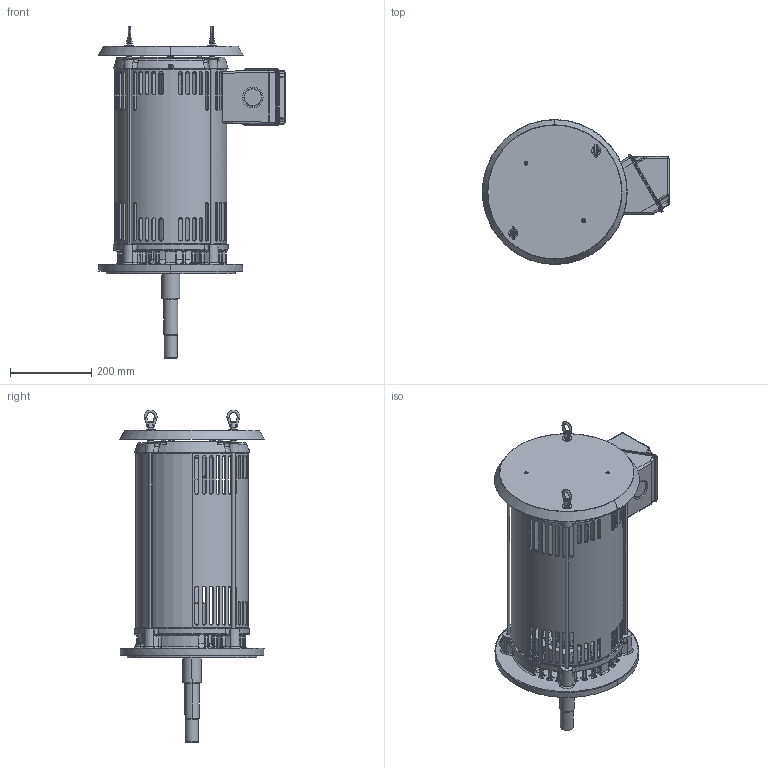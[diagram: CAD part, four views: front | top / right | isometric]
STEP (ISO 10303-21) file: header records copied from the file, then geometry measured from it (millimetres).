
FILE_DESCRIPTION((''),'2;1');
FILE_NAME('A280_ODP_2POLE_CCP_ASM','2021-09-15T10:07:05',('EMD2341'),('Nidec Motor Corporation'),'CREO PARAMETRIC BY PTC INC, 2020454','CREO PARAMETRIC BY PTC INC, 2020454','');
FILE_SCHEMA(('CONFIG_CONTROL_DESIGN'));
Length unit declared in the file: inch
Products named in the file (17): 2084116_AF0; 2035295-BKT_AF1; 2033996-005_AF2; 2028415_ASM; 2096718; 0561420; 2104498; 2104534; 0390752-SPA; 0471213-CAP; 0005800; 0041590; 2102222; 0046036; 0364282; 2103785; A280_ODP_2POLE_CCP_ASM
Assembly tree (26 placements, depth 3):
  A280_ODP_2POLE_CCP_ASM
    2084116_AF0
    2028415_ASM
      2035295-BKT_AF1
      2033996-005_AF2
    2096718
    0561420
    2104498
    2104534  x2
    0390752-SPA  x2
    0471213-CAP
    0005800  x2
    0041590  x6
    2102222  x2
    0046036  x2
    0364282
    2103785
Bounding box: 460.31 x 356.01 x 814.94 mm (x, y, z)
Volume: 6672986.5 mm3; surface area: 1997126.9 mm2
Topology: 27 solids, 41 shells, 4009 faces, 9805 edges, 5856 vertices
Faces by surface type: bspline 1248, cylinder 1066, plane 803, torus 426, cone 387, sphere 71, extrusion 8
Entity records: 180758 total; most frequent: CARTESIAN_POINT 97703, ORIENTED_EDGE 18894, DIRECTION 15062, EDGE_CURVE 9474, AXIS2_PLACEMENT_3D 6035, VERTEX_POINT 5670, EDGE_LOOP 4184, FACE_OUTER_BOUND 3875
